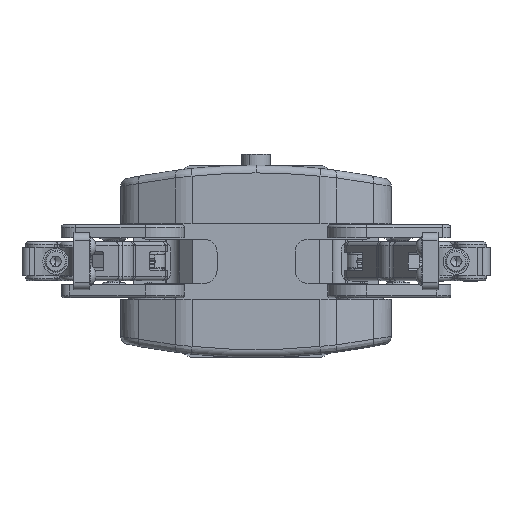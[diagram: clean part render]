
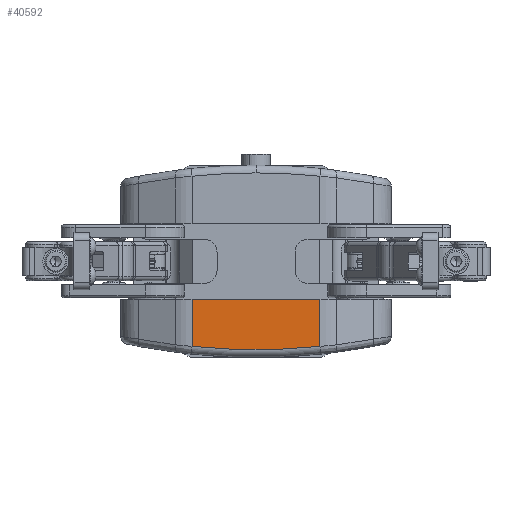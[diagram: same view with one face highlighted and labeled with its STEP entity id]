
A CAD part, front view. The second image highlights one B-rep face of the part: STEP entity #40592.
In plain terms, the highlighted planar face has unit normal (0, -1, 0).
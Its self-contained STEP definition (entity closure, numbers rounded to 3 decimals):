
#7800 = DIRECTION ( 'NONE',  ( 1., 0., 0. ) ) ;
#8071 = EDGE_CURVE ( 'NONE', #21921, #57902, #58576, .T. ) ;
#8125 = CARTESIAN_POINT ( 'NONE',  ( -0.001, -55.998, 203. ) ) ;
#8754 = AXIS2_PLACEMENT_3D ( 'NONE', #8125, #53832, #7800 ) ;
#9692 = EDGE_CURVE ( 'NONE', #21921, #38582, #40727, .T. ) ;
#10183 = CARTESIAN_POINT ( 'NONE',  ( 24.612, -55.999, -14.5 ) ) ;
#12313 = AXIS2_PLACEMENT_3D ( 'NONE', #49557, #65001, #66011 ) ;
#14136 = CARTESIAN_POINT ( 'NONE',  ( 24.612, -55.999, -32.718 ) ) ;
#15160 = ORIENTED_EDGE ( 'NONE', *, *, #42879, .T. ) ;
#20654 = VERTEX_POINT ( 'NONE', #26639 ) ;
#20818 = VECTOR ( 'NONE', #54198, 1000. ) ;
#21921 = VERTEX_POINT ( 'NONE', #10183 ) ;
#26639 = CARTESIAN_POINT ( 'NONE',  ( -24.614, -55.997, -32.718 ) ) ;
#26834 = EDGE_CURVE ( 'NONE', #57902, #20654, #49480, .T. ) ;
#27525 = ORIENTED_EDGE ( 'NONE', *, *, #9692, .F. ) ;
#30032 = VECTOR ( 'NONE', #35693, 1000. ) ;
#32067 = CARTESIAN_POINT ( 'NONE',  ( 44.999, -56., -14.5 ) ) ;
#33355 = FACE_OUTER_BOUND ( 'NONE', #44665, .T. ) ;
#33711 = CARTESIAN_POINT ( 'NONE',  ( -24.614, -55.997, -69.5 ) ) ;
#35693 = DIRECTION ( 'NONE',  ( 0., 0., -1. ) ) ;
#38582 = VERTEX_POINT ( 'NONE', #14136 ) ;
#39816 = ORIENTED_EDGE ( 'NONE', *, *, #8071, .T. ) ;
#40592 = ADVANCED_FACE ( 'NONE', ( #33355 ), #54164, .F. ) ;
#40727 = LINE ( 'NONE', #61893, #30032 ) ;
#41026 = CARTESIAN_POINT ( 'NONE',  ( -24.614, -55.997, -14.5 ) ) ;
#41267 = CIRCLE ( 'NONE', #12313, 237. ) ;
#42879 = EDGE_CURVE ( 'NONE', #20654, #38582, #41267, .T. ) ;
#44665 = EDGE_LOOP ( 'NONE', ( #57861, #15160, #27525, #39816 ) ) ;
#47506 = DIRECTION ( 'NONE',  ( -1., 0., 0. ) ) ;
#49480 = LINE ( 'NONE', #33711, #20818 ) ;
#49557 = CARTESIAN_POINT ( 'NONE',  ( -0.001, -55.998, 203. ) ) ;
#53832 = DIRECTION ( 'NONE',  ( 0., 1., 0. ) ) ;
#54164 = PLANE ( 'NONE',  #8754 ) ;
#54198 = DIRECTION ( 'NONE',  ( 0., 0., -1. ) ) ;
#57861 = ORIENTED_EDGE ( 'NONE', *, *, #26834, .T. ) ;
#57902 = VERTEX_POINT ( 'NONE', #41026 ) ;
#58576 = LINE ( 'NONE', #32067, #63038 ) ;
#61893 = CARTESIAN_POINT ( 'NONE',  ( 24.612, -55.999, -69.5 ) ) ;
#63038 = VECTOR ( 'NONE', #47506, 1000. ) ;
#65001 = DIRECTION ( 'NONE',  ( 0., -1., 0. ) ) ;
#66011 = DIRECTION ( 'NONE',  ( 0., 0., 1. ) ) ;
